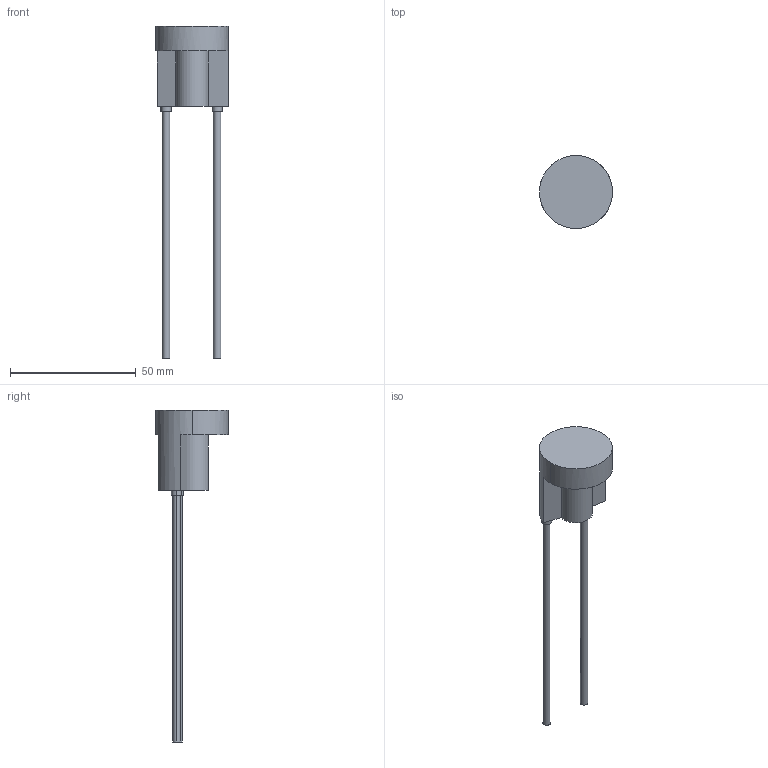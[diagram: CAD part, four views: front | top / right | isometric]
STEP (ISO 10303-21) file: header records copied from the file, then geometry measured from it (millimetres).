
FILE_DESCRIPTION (( 'STEP AP203' ), '1' );
FILE_NAME ('FR-1PRNA.STEP', '2016-06-21T01:02:12', ( '' ), ( '' ), 'SwSTEP 2.0', 'SolidWorks 2014', '' );
FILE_SCHEMA (( 'CONFIG_CONTROL_DESIGN' ));
Length unit declared in the file: metre
Products named in the file (1): FR-1PRNA
Bounding box: 29 x 29 x 131.9 mm (x, y, z)
Volume: 14157.2 mm3; surface area: 6030.9 mm2
Topology: 1 solids, 1 shells, 24 faces, 54 edges, 36 vertices
Faces by surface type: cylinder 12, plane 12
Entity records: 763 total; most frequent: DIRECTION 132, CARTESIAN_POINT 115, ORIENTED_EDGE 108, EDGE_CURVE 54, AXIS2_PLACEMENT_3D 53, VERTEX_POINT 36, CIRCLE 28, EDGE_LOOP 28
